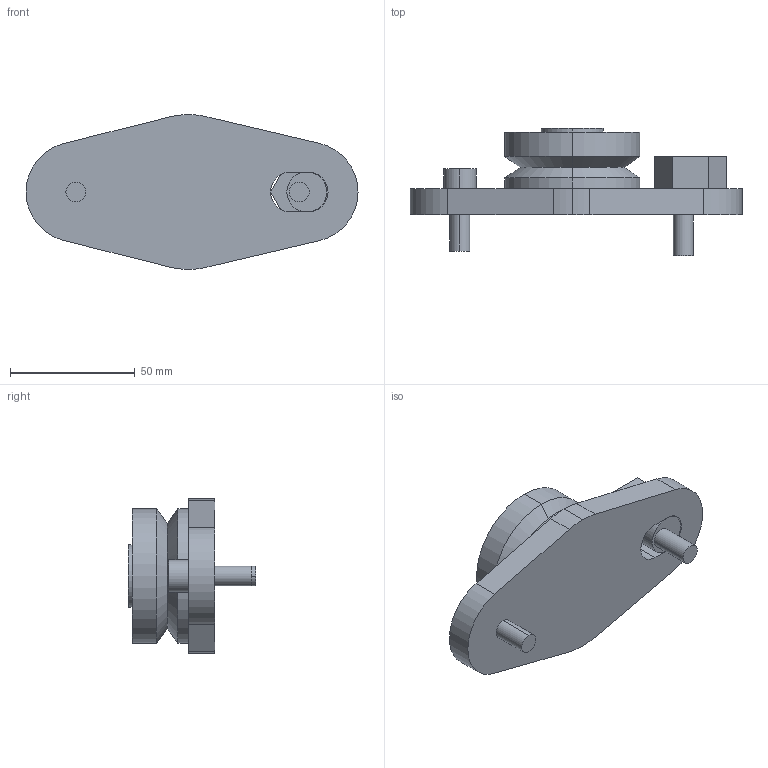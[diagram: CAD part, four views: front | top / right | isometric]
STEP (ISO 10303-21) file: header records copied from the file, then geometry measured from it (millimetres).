
FILE_DESCRIPTION(('STEP AP203'),'1');
FILE_NAME('bhj_54_e.stp','2021-09-29T05:30:37',('TraceParts'),('TraceParts S.A.'),'Spatial InterOp 3D',' ',' ');
FILE_SCHEMA(('CONFIG_CONTROL_DESIGN'));
Length unit declared in the file: millimetre
Products named in the file (1): 1
Bounding box: 133 x 51.1 x 62 mm (x, y, z)
Volume: 120821.9 mm3; surface area: 24505 mm2
Topology: 2 solids, 2 shells, 72 faces, 168 edges, 110 vertices
Faces by surface type: plane 44, cylinder 24, cone 4
Entity records: 2106 total; most frequent: DIRECTION 366, CARTESIAN_POINT 352, ORIENTED_EDGE 336, EDGE_CURVE 168, AXIS2_PLACEMENT_3D 124, LINE 118, VECTOR 118, VERTEX_POINT 110
